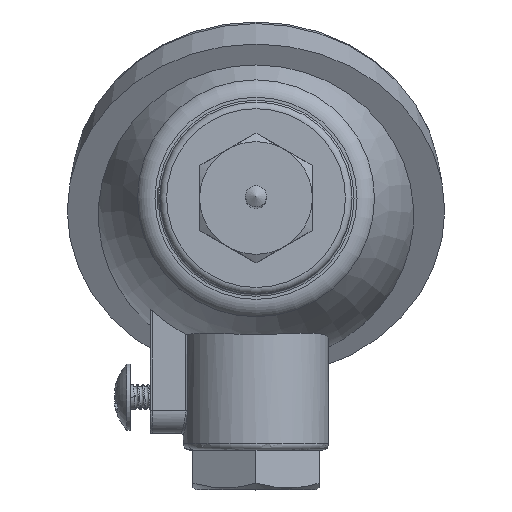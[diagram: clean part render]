
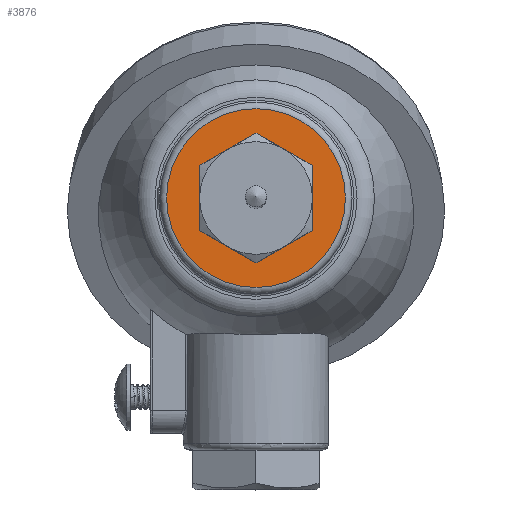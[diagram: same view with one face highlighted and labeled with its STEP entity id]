
A CAD part, top view. The second image highlights one B-rep face of the part: STEP entity #3876.
In plain terms, the highlighted planar face has unit normal (0, 0, 1).
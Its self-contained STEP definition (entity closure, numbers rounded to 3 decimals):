
#129 = ORIENTED_EDGE ( 'NONE', *, *, #4878, .F. ) ;
#534 = VERTEX_POINT ( 'NONE', #7157 ) ;
#871 = DIRECTION ( 'NONE',  ( 0.866, -0.5, 0. ) ) ;
#911 = CARTESIAN_POINT ( 'NONE',  ( 8.487, 4.9, -5. ) ) ;
#922 = CARTESIAN_POINT ( 'NONE',  ( 8.487, -4.9, -5. ) ) ;
#1047 = DIRECTION ( 'NONE',  ( 0., 0., 1. ) ) ;
#1443 = LINE ( 'NONE', #7414, #1843 ) ;
#1767 = EDGE_CURVE ( 'NONE', #6966, #534, #4929, .T. ) ;
#1776 = DIRECTION ( 'NONE',  ( 0., 1., 0. ) ) ;
#1843 = VECTOR ( 'NONE', #871, 1000. ) ;
#1871 = ORIENTED_EDGE ( 'NONE', *, *, #5468, .F. ) ;
#2097 = AXIS2_PLACEMENT_3D ( 'NONE', #5919, #1047, #3566 ) ;
#2161 = DIRECTION ( 'NONE',  ( 0., 1., 0. ) ) ;
#2173 = LINE ( 'NONE', #7537, #4914 ) ;
#2195 = ORIENTED_EDGE ( 'NONE', *, *, #6597, .F. ) ;
#2279 = CARTESIAN_POINT ( 'NONE',  ( -8.487, -4.9, -5. ) ) ;
#2440 = CARTESIAN_POINT ( 'NONE',  ( 0., 9.8, -5. ) ) ;
#2463 = CIRCLE ( 'NONE', #2097, 13.5 ) ;
#2492 = EDGE_LOOP ( 'NONE', ( #3686 ) ) ;
#2762 = FACE_BOUND ( 'NONE', #4284, .T. ) ;
#2779 = VERTEX_POINT ( 'NONE', #2279 ) ;
#2911 = FACE_OUTER_BOUND ( 'NONE', #2492, .T. ) ;
#3049 = ORIENTED_EDGE ( 'NONE', *, *, #1767, .F. ) ;
#3071 = LINE ( 'NONE', #5503, #4769 ) ;
#3237 = EDGE_CURVE ( 'NONE', #7605, #6966, #6085, .T. ) ;
#3566 = DIRECTION ( 'NONE',  ( 0., 1., 0. ) ) ;
#3686 = ORIENTED_EDGE ( 'NONE', *, *, #4436, .T. ) ;
#3756 = VECTOR ( 'NONE', #6900, 1000. ) ;
#3782 = CARTESIAN_POINT ( 'NONE',  ( 0., -9.8, -5. ) ) ;
#3876 = ADVANCED_FACE ( 'NONE', ( #2762, #2911 ), #5897, .F. ) ;
#4284 = EDGE_LOOP ( 'NONE', ( #6048, #6791, #129, #2195, #1871, #3049 ) ) ;
#4401 = AXIS2_PLACEMENT_3D ( 'NONE', #5198, #5339, #2161 ) ;
#4436 = EDGE_CURVE ( 'NONE', #5859, #5859, #2463, .T. ) ;
#4769 = VECTOR ( 'NONE', #6135, 1000. ) ;
#4878 = EDGE_CURVE ( 'NONE', #6668, #2779, #2173, .T. ) ;
#4881 = CARTESIAN_POINT ( 'NONE',  ( 8.487, -4.9, -5. ) ) ;
#4914 = VECTOR ( 'NONE', #6345, 1000. ) ;
#4929 = LINE ( 'NONE', #4881, #6694 ) ;
#5119 = LINE ( 'NONE', #911, #3756 ) ;
#5198 = CARTESIAN_POINT ( 'NONE',  ( 0., 0., -5. ) ) ;
#5339 = DIRECTION ( 'NONE',  ( 0., 0., -1. ) ) ;
#5377 = EDGE_CURVE ( 'NONE', #2779, #7605, #1443, .T. ) ;
#5452 = VECTOR ( 'NONE', #6844, 1000. ) ;
#5468 = EDGE_CURVE ( 'NONE', #534, #6256, #5119, .T. ) ;
#5503 = CARTESIAN_POINT ( 'NONE',  ( 0., 9.8, -5. ) ) ;
#5859 = VERTEX_POINT ( 'NONE', #7714 ) ;
#5897 = PLANE ( 'NONE',  #4401 ) ;
#5919 = CARTESIAN_POINT ( 'NONE',  ( 0., 0., -5. ) ) ;
#6048 = ORIENTED_EDGE ( 'NONE', *, *, #3237, .F. ) ;
#6085 = LINE ( 'NONE', #3782, #5452 ) ;
#6135 = DIRECTION ( 'NONE',  ( -0.866, -0.5, 0. ) ) ;
#6256 = VERTEX_POINT ( 'NONE', #2440 ) ;
#6345 = DIRECTION ( 'NONE',  ( 0., -1., 0. ) ) ;
#6515 = CARTESIAN_POINT ( 'NONE',  ( 0., -9.8, -5. ) ) ;
#6597 = EDGE_CURVE ( 'NONE', #6256, #6668, #3071, .T. ) ;
#6668 = VERTEX_POINT ( 'NONE', #7373 ) ;
#6694 = VECTOR ( 'NONE', #1776, 1000. ) ;
#6791 = ORIENTED_EDGE ( 'NONE', *, *, #5377, .F. ) ;
#6844 = DIRECTION ( 'NONE',  ( 0.866, 0.5, 0. ) ) ;
#6900 = DIRECTION ( 'NONE',  ( -0.866, 0.5, 0. ) ) ;
#6966 = VERTEX_POINT ( 'NONE', #922 ) ;
#7157 = CARTESIAN_POINT ( 'NONE',  ( 8.487, 4.9, -5. ) ) ;
#7373 = CARTESIAN_POINT ( 'NONE',  ( -8.487, 4.9, -5. ) ) ;
#7414 = CARTESIAN_POINT ( 'NONE',  ( -8.487, -4.9, -5. ) ) ;
#7537 = CARTESIAN_POINT ( 'NONE',  ( -8.487, 4.9, -5. ) ) ;
#7605 = VERTEX_POINT ( 'NONE', #6515 ) ;
#7714 = CARTESIAN_POINT ( 'NONE',  ( 0., 13.5, -5. ) ) ;
